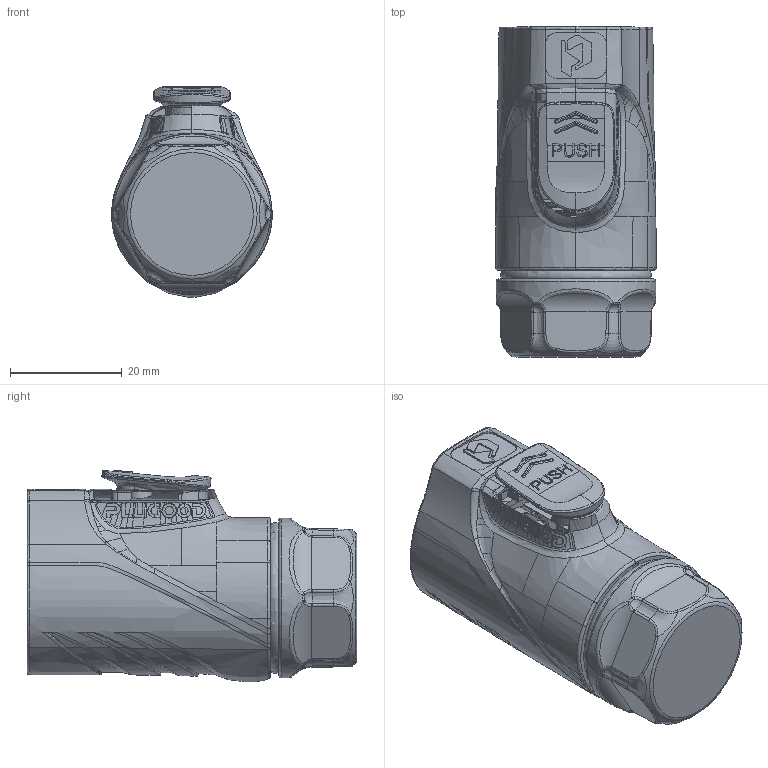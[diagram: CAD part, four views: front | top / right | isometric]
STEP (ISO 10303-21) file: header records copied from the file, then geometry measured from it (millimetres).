
FILE_DESCRIPTION (( 'STEP AP203' ), '1' );
FILE_NAME ('PLG20 5Ð¾²åÍ·.STEP', '2025-03-20T01:07:59', ( '' ), ( '' ), 'SwSTEP 2.0', 'SolidWorks 2024', '' );
FILE_SCHEMA (( 'CONFIG_CONTROL_DESIGN' ));
Length unit declared in the file: millimetre
Products named in the file (1): PLG20 5芯插头
Bounding box: 28.77 x 59.1 x 37.93 mm (x, y, z)
Topology: 2 solids, 8 shells, 1201 faces, 3204 edges, 2047 vertices
Faces by surface type: bspline 661, plane 306, cylinder 132, torus 51, cone 49, sphere 2
Full cylindrical faces by diameter (mm): 1.5 x3, 1.519 x1, 1.6 x2, 1.7 x1, 1.9 x5, 2 x1, 2.15 x5, 2.5 x1, 2.65 x1, 4.5 x1, 16.2 x1, 17.5 x1, 17.6 x1, 19.2 x2, 19.3 x2, 19.4 x2, 22.416 x7, 28.6 x1
Entity records: 91477 total; most frequent: CARTESIAN_POINT 68066, ORIENTED_EDGE 6162, EDGE_CURVE 3081, DIRECTION 2655, VERTEX_POINT 1997, B_SPLINE_CURVE_WITH_KNOTS 1826, EDGE_LOOP 1302, FACE_OUTER_BOUND 1247
